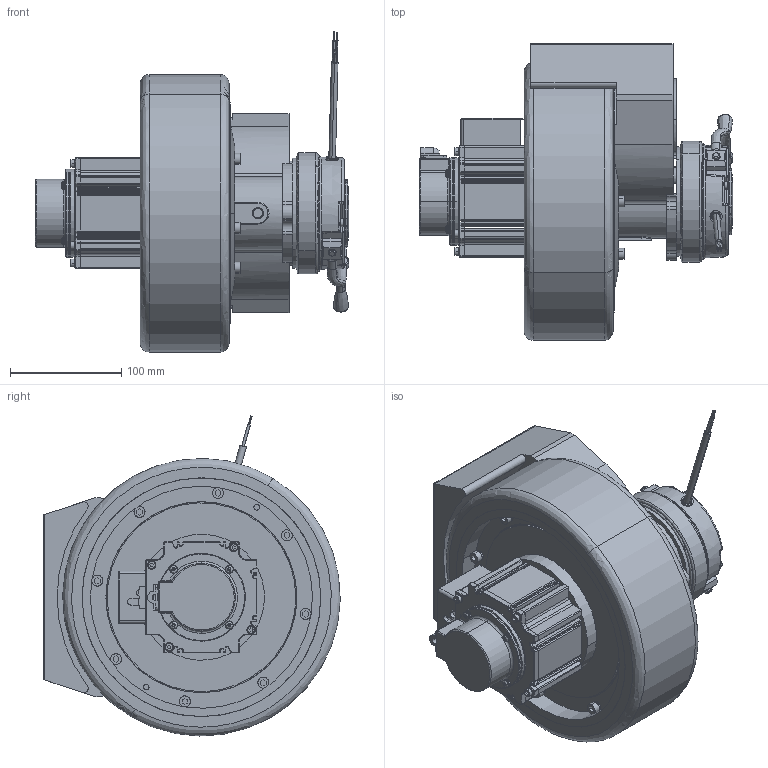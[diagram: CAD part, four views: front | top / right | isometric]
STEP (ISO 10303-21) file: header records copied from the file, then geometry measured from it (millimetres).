
FILE_DESCRIPTION (( 'STEP AP214' ), '1' );
FILE_NAME ('TEC-250P1200S-48H.STEP', '2021-11-19T01:22:24', ( 'admin' ), ( 'Microsoft' ), 'SwSTEP 2.0', 'SolidWorks 2012', '' );
FILE_SCHEMA (( 'AUTOMOTIVE_DESIGN' ));
Length unit declared in the file: millimetre
Products named in the file (1): TEC-250P1200S-48H
Bounding box: 282.3 x 266.99 x 288.22 mm (x, y, z)
Surface area: 455166.8 mm2 (no closed solid volume)
Topology: 0 solids, 107 shells, 1209 faces, 4109 edges, 2942 vertices
Faces by surface type: cylinder 518, plane 463, bspline 99, torus 69, cone 52, sphere 8
Entity records: 73078 total; most frequent: CARTESIAN_POINT 24751, DIRECTION 7647, ORIENTED_EDGE 6214, EDGE_CURVE 4095, VERTEX_POINT 2942, AXIS2_PLACEMENT_3D 2847, LINE 1953, VECTOR 1953
